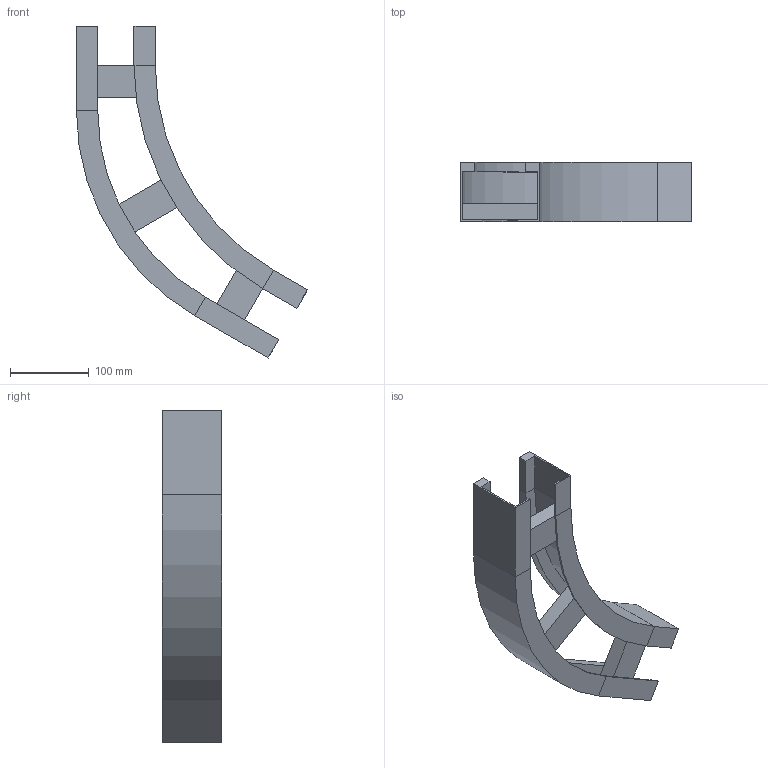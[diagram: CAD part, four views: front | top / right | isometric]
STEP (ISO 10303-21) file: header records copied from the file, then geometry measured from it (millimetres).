
FILE_DESCRIPTION (( 'STEP AP214' ), '1' );
FILE_NAME ('B2_13B3C100.step', '2025-02-21T15:21:35', ( '' ), ( '' ), 'SwSTEP 2.0', 'SolidWorks 2023', '' );
FILE_SCHEMA (( 'AUTOMOTIVE_DESIGN' ));
Length unit declared in the file: millimetre
Products named in the file (5): TRAVERSINO_L111; B2_LONGH.ESTERNO 60°_H75_R300+100; B2_13B3C100; TRAVERSINO_100; B2_LONGH.INTERNO 60°_H75_R300
Assembly tree (5 placements, depth 2):
  B2_13B3C100
    B2_LONGH.INTERNO 60°_H75_R300
    B2_LONGH.ESTERNO 60°_H75_R300+100
    TRAVERSINO_100  x2
    TRAVERSINO_L111
Bounding box: 293.3 x 75 x 421.41 mm (x, y, z)
Volume: 615395.1 mm3; surface area: 265825.1 mm2
Topology: 5 solids, 5 shells, 70 faces, 148 edges, 88 vertices
Faces by surface type: plane 62, cylinder 8
Entity records: 1822 total; most frequent: DIRECTION 296, CARTESIAN_POINT 288, ORIENTED_EDGE 272, EDGE_CURVE 136, LINE 120, VECTOR 120, AXIS2_PLACEMENT_3D 88, VERTEX_POINT 80
